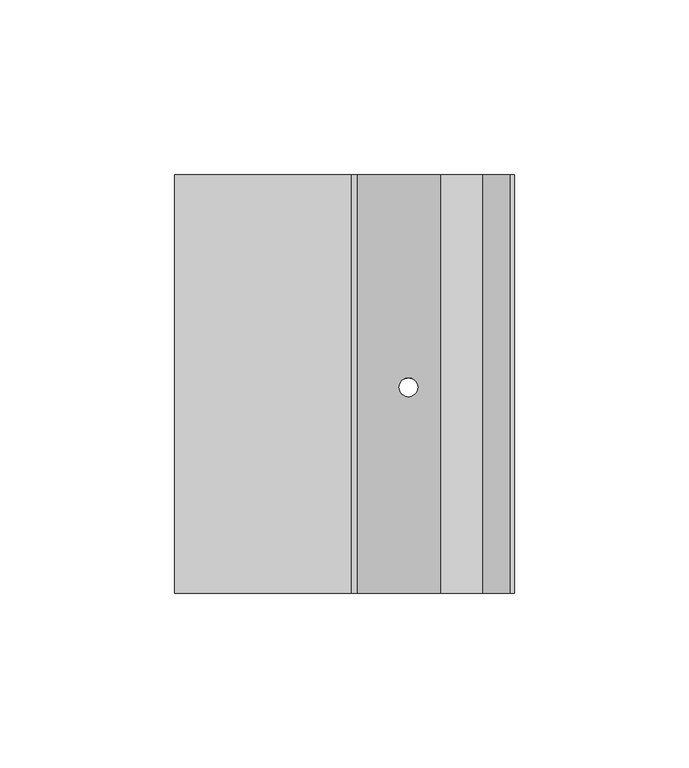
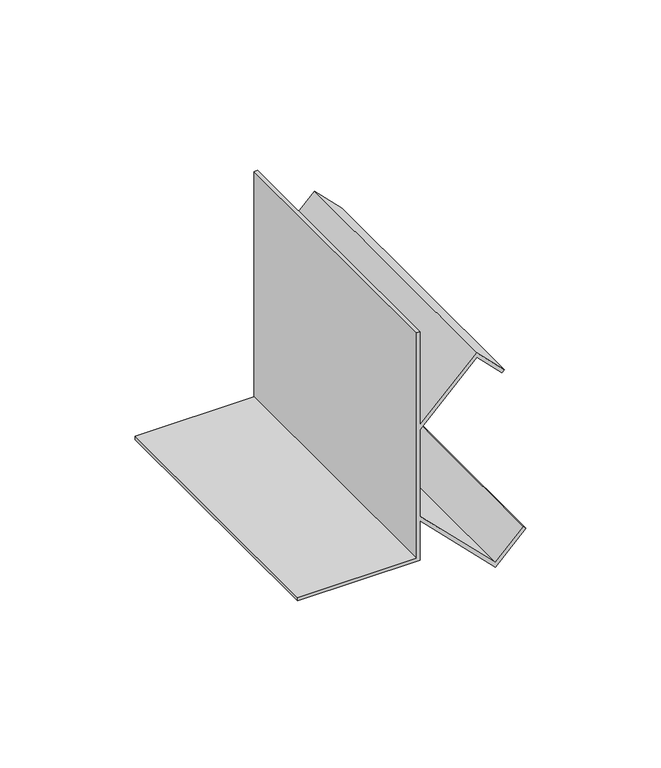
"""IFC4 building model written with IfcOpenShell, lengths in millimetres: proxy geometry, Mechanical Fittings & Accessories14 : Mechanical Fittings & Accessories."""

from ifc_helpers import new_model, si_unit, frame, origin, place, context, project, spatial, polyline, ellipse_curve, source, transform, mapped, element, save
from ifc_brep_helpers import plane_surface, revolved_surface, advanced_brep


def generic_models_15d2a3b0(model_context):
    return source(origin(), model_context, "Body", "AdvancedBrep", [
        advanced_brep(
        [(-12208.7639562, 5808.4963986, 4114.8), (-12259.5639562, 5808.4963986, 4114.8), (-12259.5639562, 5808.4963986, 4113.3117188), (-12207.275675, 5808.4963986, 4113.3117188), (-12207.275675, 5808.4963986, 4131.1383509), (-12175.165914, 5808.4963986, 4099.0285899), (-12162.1869427, 5808.4963986, 4112.0075612), (-12163.2393164, 5808.4963986, 4113.059935), (-12175.165914, 5808.4963986, 4101.1333374), (-12207.275675, 5808.4963986, 4133.2430984), (-12207.275675, 5808.4963986, 4172.2761118), (-12183.103414, 5808.4963986, 4196.4483729), (-12172.3674414, 5808.4963986, 4185.7124003), (-12171.3150677, 5808.4963986, 4186.7647741), (-12183.103414, 5808.4963986, 4198.5531204), (-12207.275675, 5808.4963986, 4174.3808594), (-12207.275675, 5808.4963986, 4216.4), (-12208.7639562, 5808.4963986, 4216.4), (-12208.7639562, 5928.4645457, 4114.8), (-12208.7639562, 5928.4645457, 4216.4), (-12207.275675, 5928.4645457, 4216.4), (-12207.275675, 5928.4645457, 4174.3808594), (-12183.103414, 5928.4645457, 4198.5531204), (-12171.3150677, 5928.4645457, 4186.7647741), (-12172.3674414, 5928.4645457, 4185.7124003), (-12183.103414, 5928.4645457, 4196.4483729), (-12207.275675, 5928.4645457, 4172.2761118), (-12207.275675, 5928.4645457, 4133.2430984), (-12175.165914, 5928.4645457, 4101.1333374), (-12163.2393164, 5928.4645457, 4113.059935), (-12162.1869427, 5928.4645457, 4112.0075612), (-12175.165914, 5928.4645457, 4099.0285899), (-12207.275675, 5928.4645457, 4131.1383509), (-12207.275675, 5928.4645457, 4113.3117188), (-12259.5639562, 5928.4645457, 4113.3117188), (-12259.5639562, 5928.4645457, 4114.8), (-12195.1617646, 5867.5191481, 4119.0244406), (-12189.8223978, 5867.5191481, 4113.6850737), (-12189.8223978, 5867.5191481, 4115.7898213), (-12195.1617646, 5867.5191481, 4121.1291881), (-12195.1617646, 5867.5191481, 4184.3900222), (-12189.8223978, 5867.5191481, 4189.729389), (-12189.8223978, 5867.5191481, 4191.8341365), (-12195.1617646, 5867.5191481, 4186.4947697)],
        [
            (0, 1),
            (1, 2),
            (2, 3),
            (3, 4),
            (4, 5),
            (5, 6),
            (6, 7),
            (7, 8),
            (8, 9),
            (9, 10),
            (10, 11),
            (11, 12),
            (12, 13),
            (13, 14),
            (14, 15),
            (15, 16),
            (16, 17),
            (17, 0),
            (18, 19),
            (19, 20),
            (20, 21),
            (21, 22),
            (22, 23),
            (23, 24),
            (24, 25),
            (25, 26),
            (26, 27),
            (27, 28),
            (28, 29),
            (29, 30),
            (30, 31),
            (31, 32),
            (32, 33),
            (33, 34),
            (34, 35),
            (35, 18),
            (0, 18),
            (35, 1),
            (34, 2),
            (33, 3),
            (32, 4),
            (31, 5),
            (36, 37, ellipse_curve(frame((-12192.4920812, 5867.5191481, 4116.3547571), z_axis=(0.7071067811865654, 0.0, 0.7071067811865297), x_axis=(-0.7071067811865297, 0.0, 0.7071067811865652)), 3.7755025, 2.6696834)),
            (37, 36, ellipse_curve(frame((-12192.4920812, 5867.5191481, 4116.3547571), z_axis=(0.7071067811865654, 0.0, 0.7071067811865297), x_axis=(-0.7071067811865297, 0.0, 0.7071067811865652)), 3.7755025, 2.6696834)),
            (30, 6),
            (29, 7),
            (28, 8),
            (27, 9),
            (38, 39, ellipse_curve(frame((-12192.4920812, 5867.5191481, 4118.4595047), z_axis=(-0.7071067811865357, 0.0, -0.7071067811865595), x_axis=(-0.7071067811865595, 0.0, 0.7071067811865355)), 3.7755025, 2.6696834)),
            (39, 38, ellipse_curve(frame((-12192.4920812, 5867.5191481, 4118.4595047), z_axis=(-0.7071067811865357, 0.0, -0.7071067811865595), x_axis=(-0.7071067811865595, 0.0, 0.7071067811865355)), 3.7755025, 2.6696834)),
            (26, 10),
            (25, 11),
            (40, 41, ellipse_curve(frame((-12192.4920812, 5867.5191481, 4187.0597056), z_axis=(-0.7071067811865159, 0.0, 0.7071067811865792), x_axis=(0.7071067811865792, 0.0, 0.7071067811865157)), 3.7755025, 2.6696834)),
            (41, 40, ellipse_curve(frame((-12192.4920812, 5867.5191481, 4187.0597056), z_axis=(-0.7071067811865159, 0.0, 0.7071067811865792), x_axis=(0.7071067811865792, 0.0, 0.7071067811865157)), 3.7755025, 2.6696834)),
            (24, 12),
            (23, 13),
            (22, 14),
            (21, 15),
            (42, 43, ellipse_curve(frame((-12192.4920812, 5867.5191481, 4189.1644531), z_axis=(0.7071067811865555, 0.0, -0.7071067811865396), x_axis=(0.7071067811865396, 0.0, 0.7071067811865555)), 3.7755025, 2.6696834)),
            (43, 42, ellipse_curve(frame((-12192.4920812, 5867.5191481, 4189.1644531), z_axis=(0.7071067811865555, 0.0, -0.7071067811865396), x_axis=(0.7071067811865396, 0.0, 0.7071067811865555)), 3.7755025, 2.6696834)),
            (20, 16),
            (19, 17),
            (36, 39),
            (38, 37),
            (40, 43),
            (42, 41),
        ],
        [
            plane_surface(frame((-12259.5639562, 5808.4963986, 4114.8), z_axis=(0.0, -1.0, 0.0), x_axis=(-1.0, 0.0, 0.0))),
            plane_surface(frame((-12259.5639562, 5928.4645457, 4114.8), z_axis=(0.0, 1.0, 0.0), x_axis=(1.0, 0.0, 0.0))),
            plane_surface(frame((-12208.7639562, 5808.4963986, 4114.8), z_axis=(0.0, 0.0, 1.0), x_axis=(0.0, 1.0, 0.0))),
            plane_surface(frame((-12259.5639562, 5808.4963986, 4114.8), z_axis=(-1.0, 0.0, 0.0), x_axis=(0.0, 1.0, 0.0))),
            plane_surface(frame((-12259.5639562, 5808.4963986, 4113.3117188), z_axis=(0.0, 0.0, -1.0), x_axis=(0.0, 1.0, 0.0))),
            plane_surface(frame((-12207.275675, 5808.4963986, 4113.3117188), z_axis=(1.0, 0.0, 0.0), x_axis=(0.0, 1.0, 0.0))),
            plane_surface(frame((-12207.275675, 5808.4963986, 4131.1383509), z_axis=(-0.7071067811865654, 0.0, -0.7071067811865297), x_axis=(0.0, 1.0, 0.0))),
            plane_surface(frame((-12175.165914, 5808.4963986, 4099.0285899), z_axis=(0.7071067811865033, 0.0, -0.7071067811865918), x_axis=(0.0, 1.0, 0.0))),
            plane_surface(frame((-12162.1869427, 5808.4963986, 4112.0075612), z_axis=(0.7071067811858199, 0.0, 0.7071067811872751), x_axis=(0.0, 1.0, 0.0))),
            plane_surface(frame((-12163.2393164, 5808.4963986, 4113.059935), z_axis=(-0.7071067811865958, 0.0, 0.7071067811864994), x_axis=(0.0, 1.0, 0.0))),
            plane_surface(frame((-12175.165914, 5808.4963986, 4101.1333374), z_axis=(0.7071067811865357, 0.0, 0.7071067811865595), x_axis=(0.0, 1.0, 0.0))),
            plane_surface(frame((-12207.275675, 5808.4963986, 4133.2430984), z_axis=(1.0, 0.0, 0.0), x_axis=(0.0, 1.0, 0.0))),
            plane_surface(frame((-12207.275675, 5808.4963986, 4172.2761118), z_axis=(0.7071067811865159, 0.0, -0.7071067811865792), x_axis=(0.0, 1.0, 0.0))),
            plane_surface(frame((-12183.103414, 5808.4963986, 4196.4483729), z_axis=(-0.7071067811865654, 0.0, -0.7071067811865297), x_axis=(0.0, 1.0, 0.0))),
            plane_surface(frame((-12172.3674414, 5808.4963986, 4185.7124003), z_axis=(0.7071067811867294, 0.0, -0.7071067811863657), x_axis=(0.0, 1.0, 0.0))),
            plane_surface(frame((-12171.3150677, 5808.4963986, 4186.7647741), z_axis=(0.7071067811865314, 0.0, 0.7071067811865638), x_axis=(0.0, 1.0, 0.0))),
            plane_surface(frame((-12183.103414, 5808.4963986, 4198.5531204), z_axis=(-0.7071067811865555, 0.0, 0.7071067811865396), x_axis=(0.0, 1.0, 0.0))),
            plane_surface(frame((-12207.275675, 5808.4963986, 4174.3808594), z_axis=(1.0, 0.0, 0.0), x_axis=(0.0, 1.0, 0.0))),
            plane_surface(frame((-12207.275675, 5808.4963986, 4216.4), z_axis=(0.0, 0.0, 1.0), x_axis=(0.0, 1.0, 0.0))),
            plane_surface(frame((-12208.7639562, 5808.4963986, 4216.4), z_axis=(-1.0, 0.0, 0.0), x_axis=(0.0, 1.0, 0.0))),
            revolved_surface(polyline([(-12189.8223978, 5867.5191481, 4121.129188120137), (-12189.8223978, 5867.5191481, 4113.685073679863)]), (-12192.4920812, 5867.5191481, 4097.2034211), (0.0, 0.0, 1.0)),
            revolved_surface(polyline([(-12189.8223978, 5867.5191481, 4191.834136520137), (-12189.8223978, 5867.5191481, 4184.390022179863)]), (-12192.4920812, 5867.5191481, 4097.2034211), (0.0, 0.0, 1.0)),
        ],
        [
            (0, [[1, 2, 3, 4, 5, 6, 7, 8, 9, 10, 11, 12, 13, 14, 15, 16, 17, 18]]),
            (1, [[19, 20, 21, 22, 23, 24, 25, 26, 27, 28, 29, 30, 31, 32, 33, 34, 35, 36]]),
            (2, [[-1, 37, -36, 38]]),
            (3, [[-2, -38, -35, 39]]),
            (4, [[-3, -39, -34, 40]]),
            (5, [[-4, -40, -33, 41]]),
            (6, [[-5, -41, -32, 42], [43, 44]]),
            (7, [[-6, -42, -31, 45]]),
            (8, [[-7, -45, -30, 46]]),
            (9, [[-8, -46, -29, 47]]),
            (10, [[-9, -47, -28, 48], [49, 50]]),
            (11, [[-10, -48, -27, 51]]),
            (12, [[-11, -51, -26, 52], [53, 54]]),
            (13, [[-12, -52, -25, 55]]),
            (14, [[-13, -55, -24, 56]]),
            (15, [[-14, -56, -23, 57]]),
            (16, [[-15, -57, -22, 58], [59, 60]]),
            (17, [[-16, -58, -21, 61]]),
            (18, [[-17, -61, -20, 62]]),
            (19, [[-18, -62, -19, -37]]),
            (20, [[63, -49, 64, -43]]),
            (21, [[65, -59, 66, -53]]),
            (20, [[-63, -44, -64, -50]]),
            (21, [[-65, -54, -66, -60]]),
        ],
    ),
    ])


if __name__ == "__main__":
    model = new_model("IFC4")
    model_context = context("Model", 3, world=origin())
    ifc_project = project(units=[si_unit("LENGTHUNIT", "METRE", prefix="MILLI")], contexts=[model_context])
    site = spatial("IfcSite", under=ifc_project)
    building = spatial("IfcBuilding", under=site)
    placement = place(None, origin())
    generic_models_shape = generic_models_15d2a3b0(model_context)
    element("IfcBuildingElementProxy", 1, Name="Mechanical Fittings & Accessories14 : Mechanical Fittings & Accessories", ObjectType="Mechanical Fittings & Accessories14 : Mechanical Fittings & Accessories", at=placement, inside=building, context=model_context, shape_type="MappedRepresentation", body=[
        mapped(generic_models_shape, transform((0.0, 0.0, 0.0), x_axis=(1.0, 0.0, 0.0), y_axis=(0.0, 1.0, 0.0), z_axis=(0.0, 0.0, 1.0))),
    ])
    save(model, "model.ifc")
